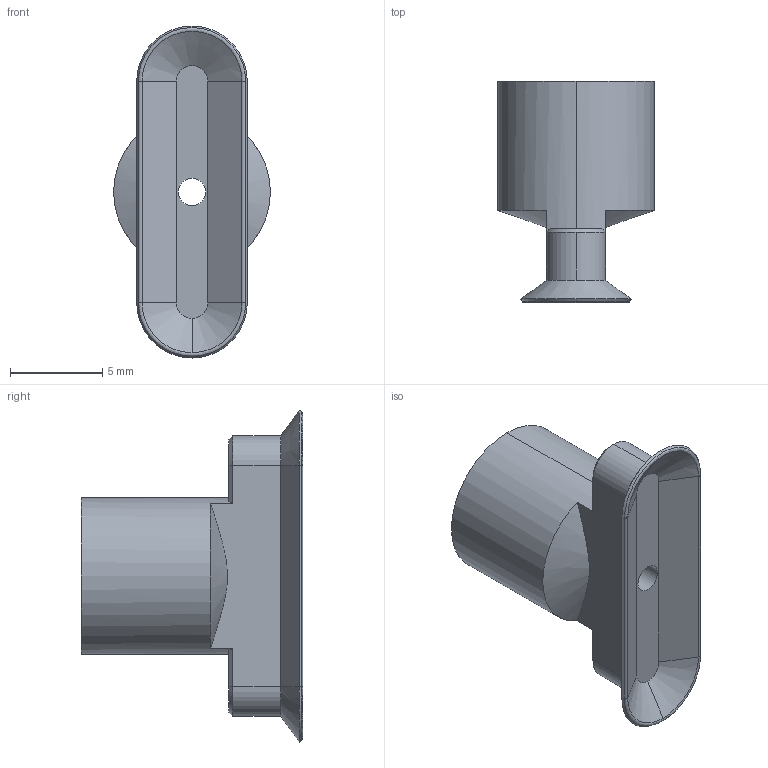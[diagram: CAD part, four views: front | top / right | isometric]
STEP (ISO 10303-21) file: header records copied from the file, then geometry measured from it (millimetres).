
FILE_DESCRIPTION (( 'STEP AP214' ), '1' );
FILE_NAME ('VS-PO618.STEP', '2019-11-13T09:09:13', ( '微软用户' ), ( '微软中国' ), 'SwSTEP 2.0', 'SolidWorks 2016', '' );
FILE_SCHEMA (( 'AUTOMOTIVE_DESIGN' ));
Length unit declared in the file: millimetre
Products named in the file (1): VS-PO618
Bounding box: 8.5 x 12 x 18 mm (x, y, z)
Volume: 448.4 mm3; surface area: 724.4 mm2
Topology: 1 solids, 1 shells, 50 faces, 115 edges, 70 vertices
Faces by surface type: plane 19, cylinder 15, cone 14, bspline 2
Entity records: 1501 total; most frequent: CARTESIAN_POINT 308, DIRECTION 259, ORIENTED_EDGE 230, EDGE_CURVE 115, AXIS2_PLACEMENT_3D 101, VERTEX_POINT 70, LINE 57, VECTOR 57
